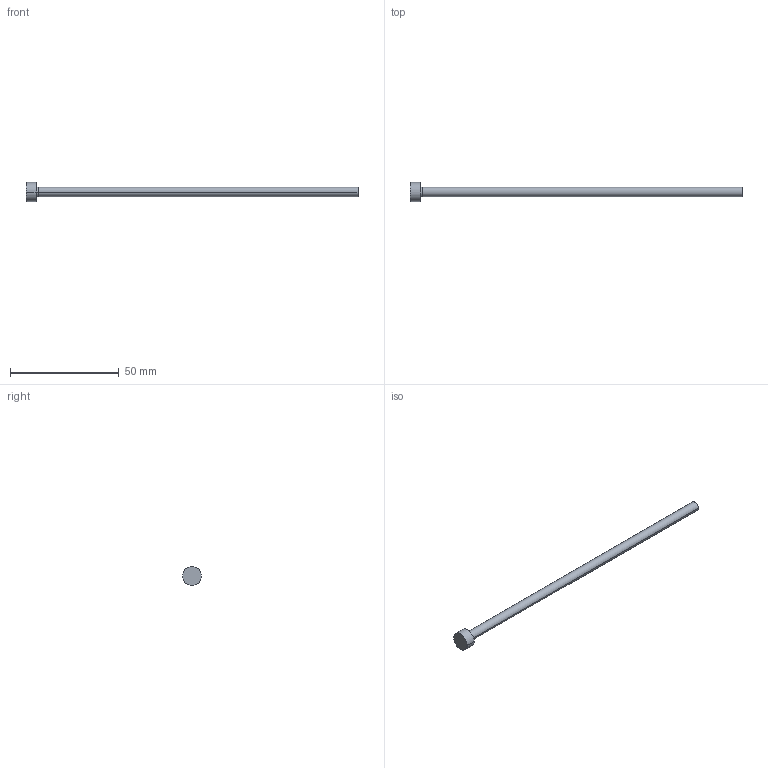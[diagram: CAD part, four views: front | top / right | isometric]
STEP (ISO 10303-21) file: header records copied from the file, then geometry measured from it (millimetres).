
FILE_DESCRIPTION (( 'STEP AP214' ), '1' );
FILE_NAME ('P12-6.STEP', '2020-03-11T18:12:21', ( '' ), ( '' ), 'SwSTEP 2.0', 'SolidWorks 2018', '' );
FILE_SCHEMA (( 'AUTOMOTIVE_DESIGN' ));
Length unit declared in the file: inch
Products named in the file (1): P12-6
Bounding box: 152.4 x 8.73 x 8.73 mm (x, y, z)
Volume: 2488.9 mm3; surface area: 2264.2 mm2
Topology: 1 solids, 1 shells, 13 faces, 24 edges, 14 vertices
Faces by surface type: cone 4, cylinder 4, plane 3, torus 2
Entity records: 366 total; most frequent: DIRECTION 68, CARTESIAN_POINT 52, ORIENTED_EDGE 48, AXIS2_PLACEMENT_3D 30, EDGE_CURVE 24, CIRCLE 16, EDGE_LOOP 14, VERTEX_POINT 14
